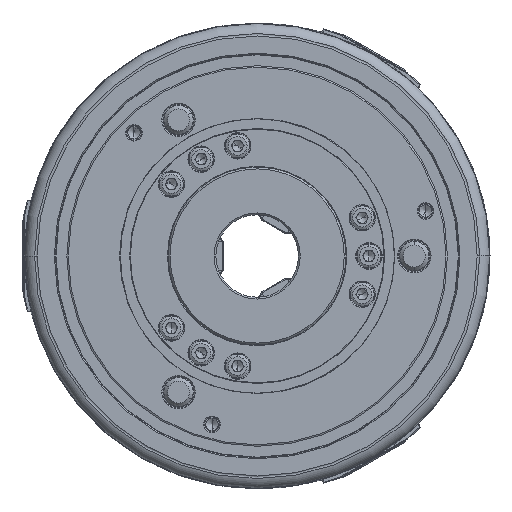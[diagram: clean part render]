
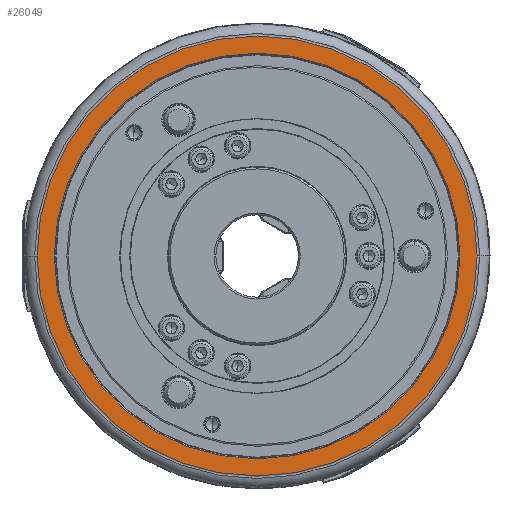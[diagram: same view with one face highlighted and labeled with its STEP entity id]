
A CAD part, left-side view. The second image highlights one B-rep face of the part: STEP entity #26049.
In plain terms, the highlighted planar face has unit normal (-1, 0, 0).
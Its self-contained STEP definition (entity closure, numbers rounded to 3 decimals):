
#1005 = FACE_BOUND ( 'NONE', #69913, .T. ) ;
#4606 = CARTESIAN_POINT ( 'NONE',  ( -100., 0., 0. ) ) ;
#6372 = DIRECTION ( 'NONE',  ( 1., 0., 0. ) ) ;
#6636 = ORIENTED_EDGE ( 'NONE', *, *, #79006, .T. ) ;
#7890 = CARTESIAN_POINT ( 'NONE',  ( -100., 120., 0. ) ) ;
#11002 = DIRECTION ( 'NONE',  ( 1., 0., 0. ) ) ;
#12367 = DIRECTION ( 'NONE',  ( 0., 0., -1. ) ) ;
#13139 = DIRECTION ( 'NONE',  ( 1., 0., 0. ) ) ;
#17835 = ORIENTED_EDGE ( 'NONE', *, *, #59509, .F. ) ;
#20086 = CIRCLE ( 'NONE', #79526, 120. ) ;
#23336 = PLANE ( 'NONE',  #29923 ) ;
#25233 = AXIS2_PLACEMENT_3D ( 'NONE', #56993, #11002, #64703 ) ;
#26049 = ADVANCED_FACE ( 'NONE', ( #98282, #1005 ), #23336, .T. ) ;
#26245 = CARTESIAN_POINT ( 'NONE',  ( -100., -120., 0. ) ) ;
#28863 = CIRCLE ( 'NONE', #79239, 110.6 ) ;
#29923 = AXIS2_PLACEMENT_3D ( 'NONE', #38080, #76925, #31024 ) ;
#31024 = DIRECTION ( 'NONE',  ( 0., 0., 1. ) ) ;
#31525 = VERTEX_POINT ( 'NONE', #96517 ) ;
#33066 = EDGE_CURVE ( 'NONE', #48789, #75712, #94738, .T. ) ;
#36766 = EDGE_LOOP ( 'NONE', ( #98072, #17835 ) ) ;
#38080 = CARTESIAN_POINT ( 'NONE',  ( -100., 55.3, -95.782 ) ) ;
#38157 = CIRCLE ( 'NONE', #72995, 110.6 ) ;
#43751 = EDGE_CURVE ( 'NONE', #31525, #94200, #28863, .T. ) ;
#48789 = VERTEX_POINT ( 'NONE', #7890 ) ;
#52343 = CARTESIAN_POINT ( 'NONE',  ( -100., 0., 0. ) ) ;
#56993 = CARTESIAN_POINT ( 'NONE',  ( -100., 0., 0. ) ) ;
#58337 = DIRECTION ( 'NONE',  ( 1., 0., 0. ) ) ;
#59110 = CARTESIAN_POINT ( 'NONE',  ( -100., 0., 0. ) ) ;
#59509 = EDGE_CURVE ( 'NONE', #75712, #48789, #20086, .T. ) ;
#60061 = DIRECTION ( 'NONE',  ( 0., 0., -1. ) ) ;
#64703 = DIRECTION ( 'NONE',  ( 0., 1., 0. ) ) ;
#66846 = DIRECTION ( 'NONE',  ( 0., 1., 0. ) ) ;
#69913 = EDGE_LOOP ( 'NONE', ( #84297, #6636 ) ) ;
#72995 = AXIS2_PLACEMENT_3D ( 'NONE', #52343, #6372, #60061 ) ;
#75712 = VERTEX_POINT ( 'NONE', #26245 ) ;
#76925 = DIRECTION ( 'NONE',  ( -1., 0., 0. ) ) ;
#79006 = EDGE_CURVE ( 'NONE', #94200, #31525, #38157, .T. ) ;
#79239 = AXIS2_PLACEMENT_3D ( 'NONE', #4606, #58337, #12367 ) ;
#79526 = AXIS2_PLACEMENT_3D ( 'NONE', #59110, #13139, #66846 ) ;
#84297 = ORIENTED_EDGE ( 'NONE', *, *, #43751, .T. ) ;
#92335 = CARTESIAN_POINT ( 'NONE',  ( -100., 0., -110.6 ) ) ;
#94200 = VERTEX_POINT ( 'NONE', #92335 ) ;
#94738 = CIRCLE ( 'NONE', #25233, 120. ) ;
#96517 = CARTESIAN_POINT ( 'NONE',  ( -100., 0., 110.6 ) ) ;
#98072 = ORIENTED_EDGE ( 'NONE', *, *, #33066, .F. ) ;
#98282 = FACE_OUTER_BOUND ( 'NONE', #36766, .T. ) ;
